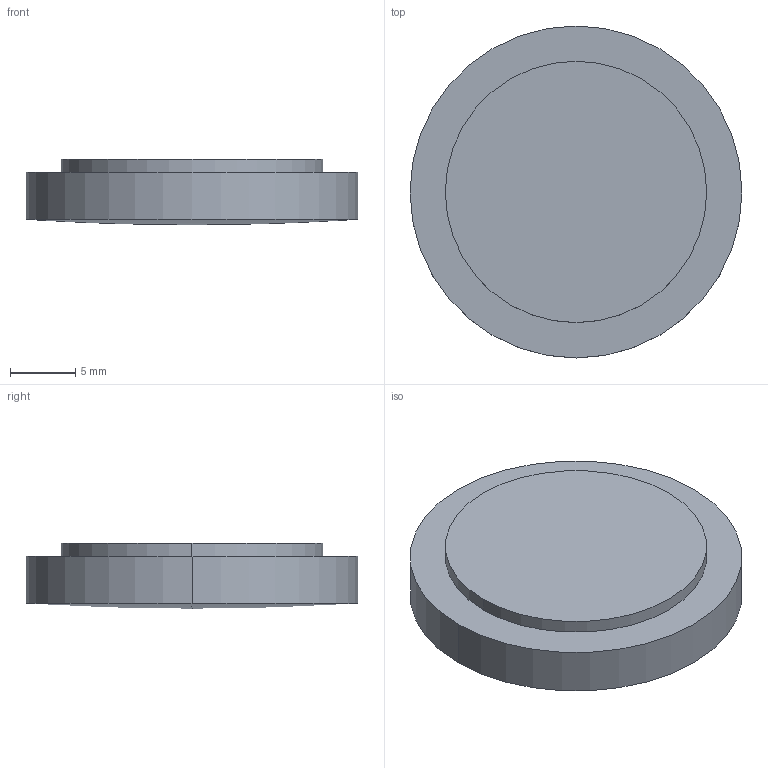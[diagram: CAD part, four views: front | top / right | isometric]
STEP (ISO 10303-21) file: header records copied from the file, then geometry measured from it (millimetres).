
FILE_DESCRIPTION(('STEP AP214'),'1');
FILE_NAME('LLR-25475.STEP','2020-03-09T17:42:00',(' '),(' '),'Spatial InterOp 3D',' ',' ');
FILE_SCHEMA(('AUTOMOTIVE_DESIGN { 1 0 10303 214 1 1 1 1 }'));
Length unit declared in the file: millimetre
Products named in the file (1): 1
Bounding box: 25.4 x 25.4 x 5 mm (x, y, z)
Volume: 2239.7 mm3; surface area: 1992.3 mm2
Topology: 2 solids, 2 shells, 9 faces, 16 edges, 9 vertices
Faces by surface type: cylinder 4, plane 3, sphere 2
Entity records: 229 total; most frequent: DIRECTION 46, CARTESIAN_POINT 34, ORIENTED_EDGE 28, AXIS2_PLACEMENT_3D 21, EDGE_CURVE 14, CIRCLE 10, ADVANCED_FACE 9, FACE_OUTER_BOUND 9
